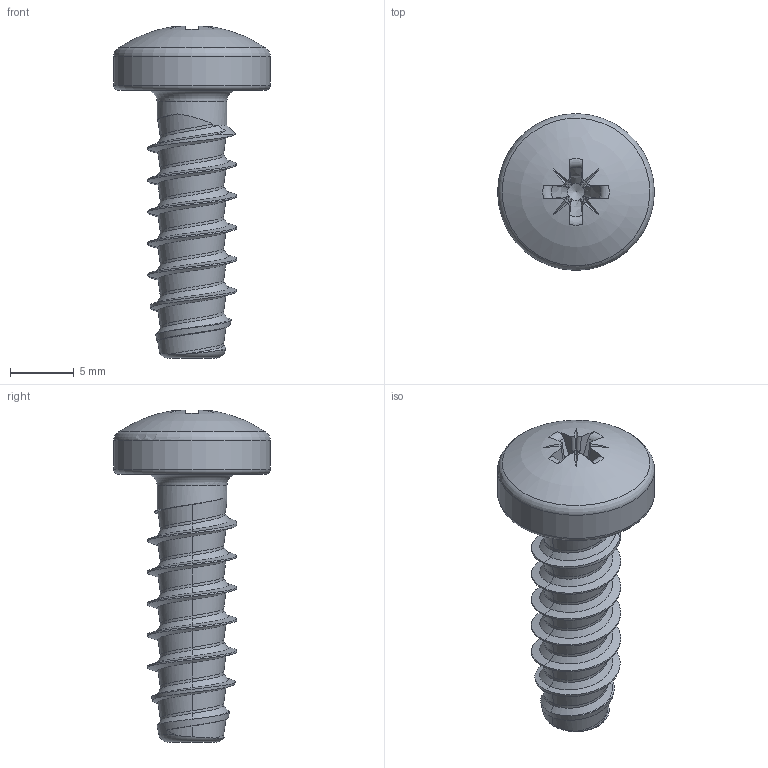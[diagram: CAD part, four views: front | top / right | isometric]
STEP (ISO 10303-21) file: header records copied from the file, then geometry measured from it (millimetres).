
FILE_DESCRIPTION(/* description */ (''),/* implementation_level */ '2;1');
FILE_NAME(/* name */ 'KN6032-STSplus-70x21-Z3.step',/* time_stamp */ '2017-10-10T16:31:08+02:00',/* author */ (''),/* organization */ (''),/* preprocessor_version */ 'ST-DEVELOPER v16',/* originating_system */ 'SIEMENS PLM Software NX 10.0',/* authorisation */ '');
FILE_SCHEMA (('AUTOMOTIVE_DESIGN { 1 0 10303 214 3 1 1 1 }'));
Length unit declared in the file: millimetre
Products named in the file (1): KN6032-STSplus-70x21-Z3
Bounding box: 12.3 x 12.3 x 26.04 mm (x, y, z)
Volume: 961.2 mm3; surface area: 876.9 mm2
Topology: 1 solids, 1 shells, 110 faces, 269 edges, 161 vertices
Faces by surface type: plane 42, bspline 41, cylinder 11, torus 8, cone 7, sphere 1
Full cylindrical faces by diameter (mm): 5.48 x1, 12.3 x1
Entity records: 5734 total; most frequent: CARTESIAN_POINT 3503, ORIENTED_EDGE 510, DIRECTION 347, EDGE_CURVE 255, VERTEX_POINT 156, AXIS2_PLACEMENT_3D 125, EDGE_LOOP 118, ADVANCED_FACE 110
